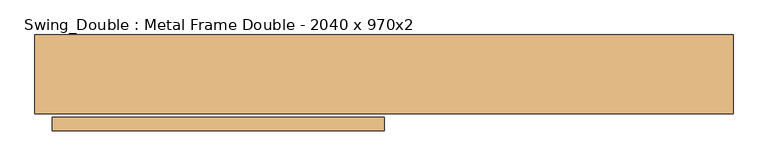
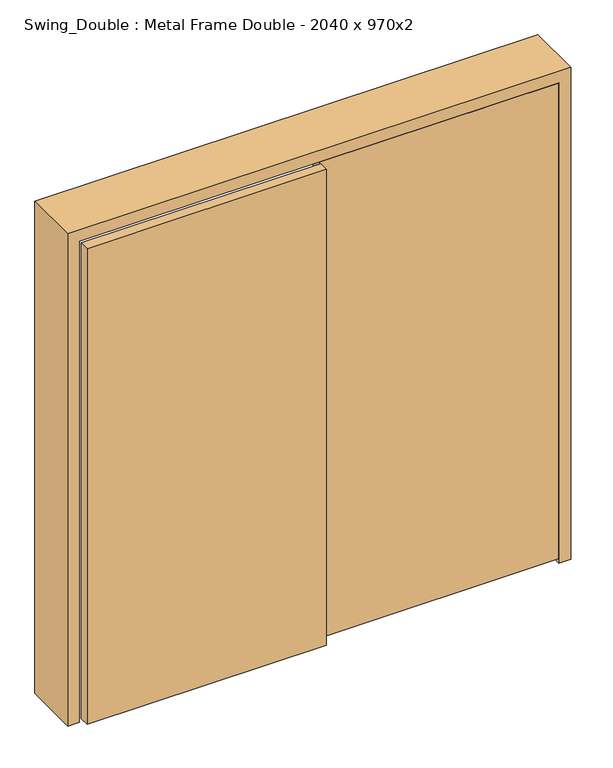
"""IFC4 building model written with IfcOpenShell, lengths in millimetres: door geometry, Swing_Double : Metal Frame Double - 2040 x 970x2."""

from ifc_helpers import new_model, si_unit, frame, origin, place, context, project, spatial, polyline, outline, extrude, faceted_brep, source, transform, mapped, element, save


def swing_double_metal_frame_double_2040_x_970x2_da7648d6(model_context):
    return source(origin(), model_context, "Body", "SolidModel", [
        extrude(outline(polyline([(-211.5, -115.0), (-211.5, -75.0), (758.5, -75.0), (758.5, -115.0), (-211.5, -115.0)])), frame((0.0, 0.0, 20.0), z_axis=(0.0, 0.0, 1.0), x_axis=(1.0, 0.0, 0.0)), (0.0, 0.0, 1.0), 2040.0),
        extrude(outline(polyline([(-211.5, -165.0), (-1181.5, -165.0), (-1181.5, -125.0), (-211.5, -125.0), (-211.5, -165.0)])), frame((0.0, 0.0, 20.0), z_axis=(0.0, 0.0, 1.0), x_axis=(1.0, 0.0, 0.0)), (0.0, 0.0, 1.0), 2040.0),
        faceted_brep([(808.5, 115.0, 0.0), (808.5, -115.0, 0.0), (760.5, -115.0, 0.0), (760.5, -73.0, 0.0), (740.5, -73.0, 0.0), (740.5, 115.0, 0.0), (740.5, 115.0, 2042.0), (-1163.5, 115.0, 2042.0), (-1163.5, 115.0, 0.0), (-1231.5, 115.0, 0.0), (-1231.5, 115.0, 2110.0), (808.5, 115.0, 2110.0), (740.5, -73.0, 2042.0), (760.5, -73.0, 2062.0), (-1183.5, -73.0, 2062.0), (-1183.5, -73.0, 0.0), (-1163.5, -73.0, 0.0), (-1163.5, -73.0, 2042.0), (760.5, -115.0, 2062.0), (808.5, -115.0, 2110.0), (-1231.5, -115.0, 2110.0), (-1231.5, -115.0, 0.0), (-1183.5, -115.0, 0.0), (-1183.5, -115.0, 2062.0)], [[[0, 1, 2, 3, 4, 5]], [[5, 6, 7, 8, 9, 10, 11, 0]], [[4, 12, 6, 5]], [[3, 13, 14, 15, 16, 17, 12, 4]], [[2, 18, 13, 3]], [[1, 19, 20, 21, 22, 23, 18, 2]], [[0, 11, 19, 1]], [[23, 22, 15, 14]], [[9, 8, 16, 15, 22, 21]], [[10, 9, 21, 20]], [[17, 16, 8, 7]], [[11, 10, 20, 19]], [[18, 23, 14, 13]], [[12, 17, 7, 6]]]),
    ])


if __name__ == "__main__":
    model = new_model("IFC4")
    model_context = context("Model", 3, world=origin())
    ifc_project = project(units=[si_unit("LENGTHUNIT", "METRE", prefix="MILLI")], contexts=[model_context])
    site = spatial("IfcSite", under=ifc_project)
    building = spatial("IfcBuilding", under=site)
    placement = place(None, origin())
    swing_double_metal_frame_double_2040_x_970x2_shape = swing_double_metal_frame_double_2040_x_970x2_da7648d6(model_context)
    element("IfcDoor", 1, ObjectType="Swing_Double : Metal Frame Double - 2040 x 970x2", at=placement, inside=building, context=model_context, shape_type="MappedRepresentation", body=[
        mapped(swing_double_metal_frame_double_2040_x_970x2_shape, transform((0.0, 0.0, 0.0), x_axis=(1.0, 0.0, 0.0), y_axis=(0.0, 1.0, 0.0), z_axis=(0.0, 0.0, 1.0))),
    ])
    save(model, "model.ifc")
